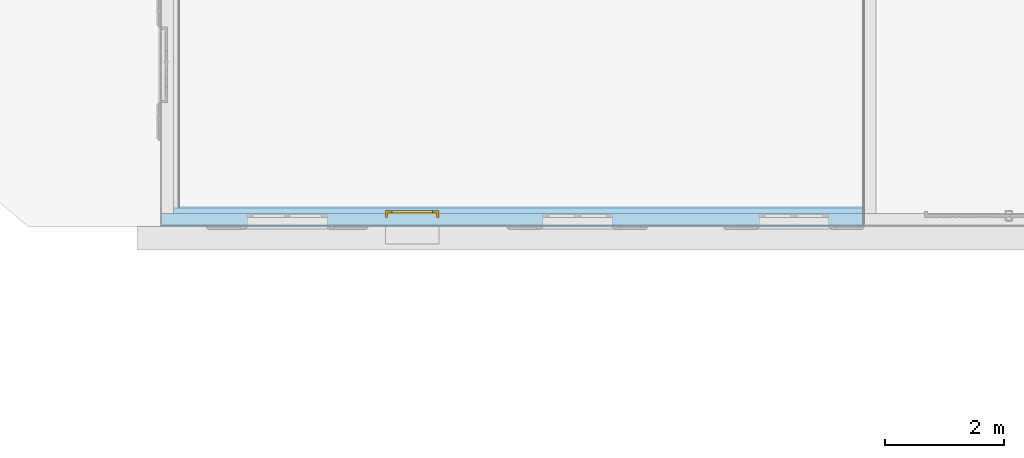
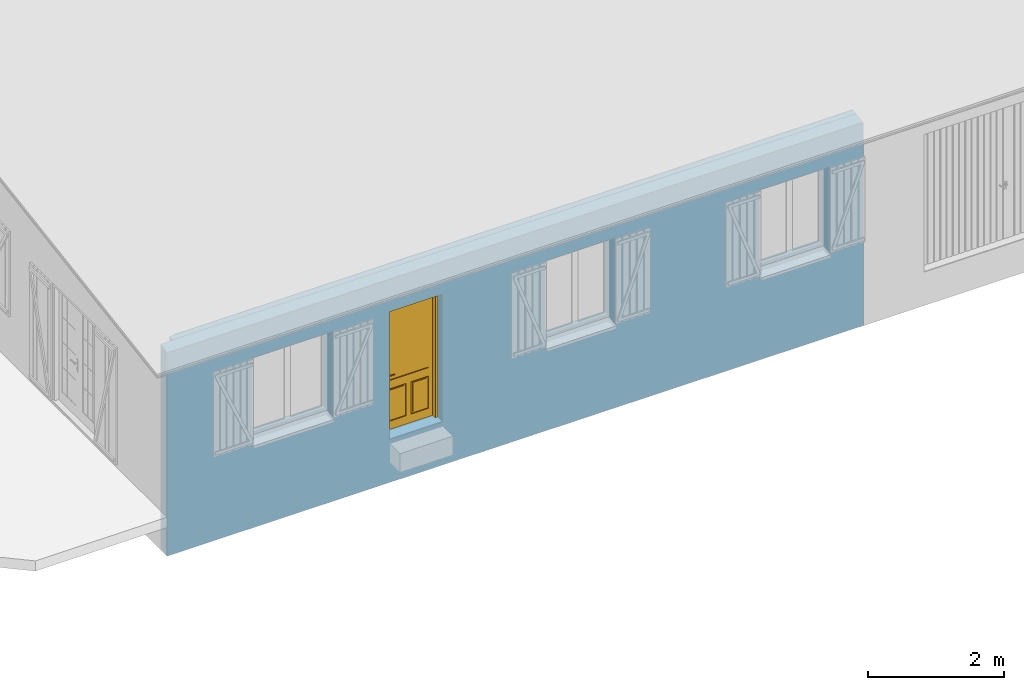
# One storey, part 6 of 12: 1 door, 4 openings, 1 element without a shape of its own, plus 4 elements that do not belong to this part.
"""IFC2X3 building model written with IfcOpenShell, lengths in metres."""

import ifcopenshell
import ifcopenshell.guid

model = None  # the IFC model being written
_history = None  # IfcOwnerHistory: only IFC2X3 demands one
_inside = {}  # id of a spatial element -> (the spatial element, [elements in it])
_under = {}  # id of a project, library or spatial element -> (it, [spatial elements below it])
_declared = {}  # id of a project -> (the project, [libraries it declares])
_typed = {}  # id of a type object -> (the type object, [elements of that type])
_made_of = {}  # id of a material, layer set ... -> (it, [elements and type objects made of it])


def new_model(schema):
    """Start an empty IFC model of exactly this schema.

    Asked for "IFC4X3", IfcOpenShell would pick the latest addendum, in which some entities
    have other attributes; the version numbers below select the first issue.
    IFC2X3 requires an IfcOwnerHistory on every rooted entity: one is made here for all.
    """
    global model, _history
    if schema == "IFC4X3":
        model = ifcopenshell.file(schema_version=(4, 3, 0, 0))
    else:
        model = ifcopenshell.file(schema=schema)
    _inside.clear()
    _under.clear()
    _declared.clear()
    _typed.clear()
    _made_of.clear()
    _history = None
    if model.schema == "IFC2X3":
        org = make("IfcOrganization", Name="unknown")
        user = make(
            "IfcPersonAndOrganization",
            ThePerson=make("IfcPerson", FamilyName="unknown"),
            TheOrganization=org,
        )
        app = make(
            "IfcApplication",
            ApplicationDeveloper=org,
            Version="unknown",
            ApplicationFullName="unknown",
            ApplicationIdentifier="unknown",
        )
        _history = make(
            "IfcOwnerHistory",
            OwningUser=user,
            OwningApplication=app,
            ChangeAction="ADDED",
            CreationDate=0,
        )
    return model


def make(cls, **values):
    """One entity of the class cls with the attributes given. An attribute that is None is left unset."""
    return model.create_entity(
        cls, **{name: value for name, value in values.items() if value is not None}
    )


def entity(cls, *values):
    """Any entity or typed value of the class cls, its attributes in the order of the schema. None: left unset."""
    e = model.create_entity(cls)
    for i, value in enumerate(values):
        if value is not None:
            e[i] = value
    return e


def rooted(cls, **values):
    """An entity with a GlobalId (a new one), such as an element, a storey or a relation."""
    return make(cls, GlobalId=ifcopenshell.guid.new(), OwnerHistory=_history, **values)


def si_unit(unit_type, name, prefix=None):
    """IfcSIUnit, for example si_unit("LENGTHUNIT", "METRE", prefix="MILLI")."""
    return make("IfcSIUnit", UnitType=unit_type, Prefix=prefix, Name=name)


def converted_unit(unit_type, name, factor, base, dimensions=None, offset=None):
    """IfcConversionBasedUnit, such as the inch: factor (a typed value) times the base unit."""
    return make(
        "IfcConversionBasedUnit"
        if offset is None
        else "IfcConversionBasedUnitWithOffset",
        ConversionOffset=offset,
        Dimensions=None
        if dimensions is None
        else entity("IfcDimensionalExponents", *dimensions),
        UnitType=unit_type,
        Name=name,
        ConversionFactor=make(
            "IfcMeasureWithUnit", ValueComponent=factor, UnitComponent=base
        ),
    )


def derived_unit(unit_type, elements):
    """IfcDerivedUnit: a product of units, each with its exponent."""
    return make(
        "IfcDerivedUnit",
        Elements=[
            make("IfcDerivedUnitElement", Unit=unit, Exponent=power)
            for unit, power in elements
        ],
        UnitType=unit_type,
    )


def money_unit(currency):
    """IfcMonetaryUnit."""
    return make("IfcMonetaryUnit", Currency=currency)


def assignment(units):
    """IfcUnitAssignment: the units of a project."""
    return None if units is None else make("IfcUnitAssignment", Units=units)


def point(xyz):
    """IfcCartesianPoint."""
    return None if xyz is None else make("IfcCartesianPoint", Coordinates=xyz)


def direction(xyz):
    """IfcDirection."""
    return None if xyz is None else make("IfcDirection", DirectionRatios=xyz)


def frame(location, z_axis=None, x_axis=None):
    """IfcAxis2Placement3D, a coordinate frame: its origin and axes. An axis left out is left unset."""
    return make(
        "IfcAxis2Placement3D",
        Location=point(location),
        Axis=direction(z_axis),
        RefDirection=direction(x_axis),
    )


def frame_2d(location, x_axis=None):
    """IfcAxis2Placement2D, a coordinate frame in the plane: its origin and x axis."""
    return make(
        "IfcAxis2Placement2D", Location=point(location), RefDirection=direction(x_axis)
    )


def origin_with_axes():
    """The frame at (0, 0, 0) with the z axis (0, 0, 1) and the x axis (1, 0, 0) written out."""
    return frame((0.0, 0.0, 0.0), z_axis=(0.0, 0.0, 1.0), x_axis=(1.0, 0.0, 0.0))


def origin_2d_with_axis():
    """The frame at (0, 0) in the plane with the x axis (1, 0) written out."""
    return frame_2d((0.0, 0.0), x_axis=(1.0, 0.0))


def place(relative_to, where):
    """IfcLocalPlacement: puts the frame where relative to a parent placement (None: the world)."""
    return make(
        "IfcLocalPlacement", PlacementRelTo=relative_to, RelativePlacement=where
    )


def context(
    kind, dimensions, precision=None, world=None, true_north=None, identifier=None
):
    """IfcGeometricRepresentationContext, for example the 3D "Model" context."""
    return make(
        "IfcGeometricRepresentationContext",
        ContextIdentifier=identifier,
        ContextType=kind,
        CoordinateSpaceDimension=dimensions,
        Precision=precision,
        WorldCoordinateSystem=world,
        TrueNorth=true_north,
    )


def subcontext(parent, identifier, kind, view, scale=None):
    """IfcGeometricRepresentationSubContext, for example "Body" below "Model"."""
    return make(
        "IfcGeometricRepresentationSubContext",
        ContextIdentifier=identifier,
        ContextType=kind,
        ParentContext=parent,
        TargetScale=scale,
        TargetView=view,
    )


def project(units=None, contexts=None):
    """IfcProject with its units and contexts."""
    return rooted(
        "IfcProject",
        Name="project",
        RepresentationContexts=contexts,
        UnitsInContext=assignment(units),
    )


def spatial(cls, under=None, at=None, **own):
    """A site, building, storey or space (cls), placed at a placement, below another one or the project."""
    s = rooted(cls, ObjectPlacement=at, **own)
    if under is not None:
        _under.setdefault(under.id(), (under, []))[1].append(s)
    return s


def polyline(points):
    """IfcPolyline through the points."""
    return make("IfcPolyline", Points=[point(p) for p in points])


def profile(cls, at=None, kind="AREA", **sizes):
    """A parametric profile (cls). Its sizes go by their IFC names, for example OverallWidth=200.0."""
    return make(cls, ProfileType=kind, Position=at, **sizes)


def rectangle(**sizes):
    """IfcRectangleProfileDef."""
    return profile("IfcRectangleProfileDef", **sizes)


def outline(outer, holes=None, kind="AREA"):
    """IfcArbitraryClosedProfileDef: a profile drawn as a closed curve; with holes, ...WithVoids."""
    if holes is None:
        return make("IfcArbitraryClosedProfileDef", ProfileType=kind, OuterCurve=outer)
    return make(
        "IfcArbitraryProfileDefWithVoids",
        ProfileType=kind,
        OuterCurve=outer,
        InnerCurves=holes,
    )


def extrude(swept, where, along, depth):
    """IfcExtrudedAreaSolid: the profile swept, set in the frame where, extruded along a direction by depth."""
    return make(
        "IfcExtrudedAreaSolid",
        SweptArea=swept,
        Position=where,
        ExtrudedDirection=direction(along),
        Depth=depth,
    )


def boolean(op, a, b):
    """IfcBooleanResult of two solids."""
    return make("IfcBooleanResult", Operator=op, FirstOperand=a, SecondOperand=b)


def faces_of(points, faces, orient=None, outer=None):
    """IfcFace entities. A face is a list of loops; a loop is a list of indices into points, from 0.

    orient and outer hold one flag for each loop. By default every Orientation is true, the
    first loop of a face is its IfcFaceOuterBound and the others are IfcFaceBound.
    """
    made = []
    for i, loops in enumerate(faces):
        bounds = []
        for j, loop in enumerate(loops):
            is_outer = j == 0 if outer is None else outer[i][j]
            bounds.append(
                make(
                    "IfcFaceOuterBound" if is_outer else "IfcFaceBound",
                    Bound=make("IfcPolyLoop", Polygon=[points[k] for k in loop]),
                    Orientation=True if orient is None else orient[i][j],
                )
            )
        made.append(make("IfcFace", Bounds=bounds))
    return made


def open_shell(faces, orient=None, outer=None):
    """The faces of one IfcOpenShell. surface_model builds it on its shared points."""
    return ("IfcOpenShell", faces, orient, outer)


def faceted_brep(points, faces, orient=None, outer=None, voids=None):
    """IfcFacetedBrep: a solid bounded by flat faces; with voids (closed shells), ...WithVoids."""
    shared = [point(p) for p in points]
    hull = make("IfcClosedShell", CfsFaces=faces_of(shared, faces, orient, outer))
    if voids is None:
        return make("IfcFacetedBrep", Outer=hull)
    return make(
        "IfcFacetedBrepWithVoids",
        Outer=hull,
        Voids=[
            make(cls, CfsFaces=faces_of(shared, fs, o, b)) for cls, fs, o, b in voids
        ],
    )


def surface_model(cls, points, shells):
    """IfcFaceBasedSurfaceModel or IfcShellBasedSurfaceModel (cls): surfaces that need not close."""
    shared = [point(p) for p in points]
    made = [make(c, CfsFaces=faces_of(shared, fs, o, b)) for c, fs, o, b in shells]
    if cls == "IfcFaceBasedSurfaceModel":
        return make(cls, FbsmFaces=made)
    return make(cls, SbsmBoundary=made)


def shape(context_of_items, identifier, shape_type, items):
    """IfcShapeRepresentation: the items that make up one representation, for example the "Body"."""
    return make(
        "IfcShapeRepresentation",
        ContextOfItems=context_of_items,
        RepresentationIdentifier=identifier,
        RepresentationType=shape_type,
        Items=items,
    )


def material(Name=None, Category=None):
    """IfcMaterial."""
    return make("IfcMaterial", Name=Name, Category=Category)


def made_of(thing, what):
    """Note that an element or type object is made of a material, layer set ...; save() writes the relation."""
    if what is not None:
        _made_of.setdefault(what.id(), (what, []))[1].append(thing)
    return thing


def type_object(cls, material=None, **own):
    """A type object (cls), such as IfcWallType, which elements share."""
    return made_of(rooted(cls, **own), material)


def element(
    cls,
    number,
    at=None,
    inside=None,
    cuts=None,
    type_object=None,
    material=None,
    context=None,
    identifier="Body",
    shape_type=None,
    held_by="IfcProductDefinitionShape",
    body=None,
    shapes=None,
    **own,
):
    """One element of the class cls, such as IfcWall. Its Tag is "e" and its number.

    at: its placement. inside: the storey or other place that contains it. cuts: it is an
    opening in that element (IfcRelVoidsElement). A single representation is given by context,
    identifier, shape_type and body (its items); several are given by shapes. held_by: the class
    of the entity that holds the representations. save() writes the other relations.
    """
    e = rooted(cls, Tag="e%d" % number, ObjectPlacement=at, **own)
    if body is not None:
        shapes = [shape(context, identifier, shape_type, body)]
    if shapes is not None:
        e.Representation = make(held_by, Representations=shapes)
    if inside is not None:
        _inside.setdefault(inside.id(), (inside, []))[1].append(e)
    if cuts is not None:
        rooted(
            "IfcRelVoidsElement", RelatingBuildingElement=cuts, RelatedOpeningElement=e
        )
    if type_object is not None:
        _typed.setdefault(type_object.id(), (type_object, []))[1].append(e)
    return made_of(e, material)


def fill(opening, filler):
    """IfcRelFillsElement: the door or window that sits in an opening."""
    return rooted(
        "IfcRelFillsElement",
        RelatingOpeningElement=opening,
        RelatedBuildingElement=filler,
    )


def aggregate(whole, parts):
    """IfcRelAggregates: a whole, such as a stair, and the parts it consists of."""
    return rooted("IfcRelAggregates", RelatingObject=whole, RelatedObjects=parts)


def save(model, path):
    """Write the relations noted so far, then the file.

    IfcRelAggregates (storeys below a building ...), IfcRelContainedInSpatialStructure (elements
    in a storey), IfcRelDefinesByType, IfcRelAssociatesMaterial and IfcRelDeclares: one each for
    every whole, place, type object, material and project.
    """
    for whole, parts in _under.values():
        aggregate(whole, parts)
    for where, things in _inside.values():
        rooted(
            "IfcRelContainedInSpatialStructure",
            RelatedElements=things,
            RelatingStructure=where,
        )
    for kind, things in _typed.values():
        rooted("IfcRelDefinesByType", RelatedObjects=things, RelatingType=kind)
    for what, things in _made_of.values():
        rooted("IfcRelAssociatesMaterial", RelatedObjects=things, RelatingMaterial=what)
    for by, libraries in _declared.values():
        rooted("IfcRelDeclares", RelatingContext=by, RelatedDefinitions=libraries)
    model.write(path)


model = new_model("IFC2X3")

# Units and contexts
model_context = context("Model", 3, precision=1e-05, world=origin_with_axes(), true_north=direction((0.0, 1.0)))
body_context = subcontext(model_context, "Body", "Model", "MODEL_VIEW")
ifc_project = project(units=[si_unit("LENGTHUNIT", "METRE"), si_unit("AREAUNIT", "SQUARE_METRE"), si_unit("VOLUMEUNIT", "CUBIC_METRE"), converted_unit("PLANEANGLEUNIT", "DEGREE", entity("IfcPlaneAngleMeasure", 0.0174532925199), si_unit("PLANEANGLEUNIT", "RADIAN"), dimensions=[0, 0, 0, 0, 0, 0, 0]), si_unit("SOLIDANGLEUNIT", "STERADIAN"), money_unit("CHF"), converted_unit("TIMEUNIT", "Year", entity("IfcTimeMeasure", 31556926.0), si_unit("TIMEUNIT", "SECOND"), dimensions=[0, 0, 1, 0, 0, 0, 0]), si_unit("MASSUNIT", "GRAM", prefix="KILO"), si_unit("THERMODYNAMICTEMPERATUREUNIT", "DEGREE_CELSIUS"), si_unit("LUMINOUSINTENSITYUNIT", "LUMEN"), si_unit("ENERGYUNIT", "JOULE", prefix="MEGA"), derived_unit("THERMALCONDUCTANCEUNIT", [(si_unit("POWERUNIT", "WATT"), 1), (si_unit("LENGTHUNIT", "METRE"), -1), (si_unit("THERMODYNAMICTEMPERATUREUNIT", "KELVIN"), -1)]), derived_unit("SPECIFICHEATCAPACITYUNIT", [(si_unit("ENERGYUNIT", "JOULE"), 1), (si_unit("MASSUNIT", "GRAM", prefix="KILO"), -1), (si_unit("THERMODYNAMICTEMPERATUREUNIT", "KELVIN"), -1)]), derived_unit("MASSDENSITYUNIT", [(si_unit("MASSUNIT", "GRAM", prefix="KILO"), 1), (si_unit("VOLUMEUNIT", "CUBIC_METRE"), -1)])], contexts=[model_context])

# Site, building, storey
site_placement = place(None, origin_with_axes())
site = spatial("IfcSite", under=ifc_project, at=site_placement, Name="Site", CompositionType="ELEMENT")
building_placement = place(site_placement, origin_with_axes())
building = spatial("IfcBuilding", under=site, at=building_placement, Name="Bâtiment", CompositionType="ELEMENT")
storey_placement = place(building_placement, origin_with_axes())
storey = spatial("IfcBuildingStorey", under=building, at=storey_placement, Name="Rez-de-chaussée", CompositionType="ELEMENT", Elevation=0.0)

# Door
door_style = type_object("IfcDoorStyle", Name="Porte 24", ConstructionType="NOTDEFINED", OperationType="SINGLE_SWING_RIGHT", ParameterTakesPrecedence=False, Sizeable=False)
wall_placement = place(storey_placement, frame((23.3871417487, 7.7379346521, -0.6), z_axis=(0.0, 0.0, 1.0), x_axis=(-1.0, 0.0, 0.0)))
opening_4_placement = place(wall_placement, frame((7.59, 0.0, 0.77), z_axis=(0.0, 0.0, 1.0), x_axis=(1.0, 0.0, 0.0)))
door_placement = place(opening_4_placement, frame((0.45, 0.0, 0.0), z_axis=(0.0, 0.0, 1.0), x_axis=(-1.0, 0.0, 0.0)))
door = element("IfcDoor", 1, at=door_placement, inside=storey, type_object=door_style, Name="PORTE-003", ObjectType="DOOR", OverallHeight=2.3, OverallWidth=0.9, context=body_context, shape_type="SurfaceModel", body=[
    faceted_brep([(0.04, 0.225, 0.0), (0.04, 0.225, 2.26), (0.04, 0.15, 2.26), (0.04, 0.15, 0.0), (0.028, 0.225, 2.26), (0.028, 0.225, 0.0), (0.028, 0.265, 2.26), (0.0, 0.265, 2.26), (0.0, 0.15, 2.26), (0.0, 0.15, 0.0), (0.0, 0.265, 0.0), (0.028, 0.265, 0.0)], [[[0, 1, 2, 3]], [[4, 1, 0, 5]], [[4, 6, 7, 8, 2, 1]], [[3, 2, 8, 9]], [[5, 0, 3, 9, 10, 11]], [[6, 4, 5, 11]], [[6, 11, 10, 7]], [[10, 9, 8, 7]]]),
    faceted_brep([(0.872, 0.225, 2.26), (0.86, 0.225, 2.26), (0.86, 0.15, 2.26), (0.9, 0.15, 2.26), (0.9, 0.265, 2.26), (0.872, 0.265, 2.26), (0.872, 0.225, 0.0), (0.86, 0.225, 0.0), (0.86, 0.15, 0.0), (0.9, 0.15, 0.0), (0.9, 0.265, 0.0), (0.872, 0.265, 0.0)], [[[0, 1, 2, 3, 4, 5]], [[1, 0, 6, 7]], [[1, 7, 8, 2]], [[3, 2, 8, 9]], [[4, 3, 9, 10]], [[11, 5, 4, 10]], [[0, 5, 11, 6]], [[6, 11, 10, 9, 8, 7]]]),
    faceted_brep([(0.028, 0.265, 2.272), (0.028, 0.265, 2.26), (0.0, 0.265, 2.26), (0.0, 0.265, 2.3), (0.9, 0.265, 2.3), (0.9, 0.265, 2.26), (0.872, 0.265, 2.26), (0.872, 0.265, 2.272), (0.028, 0.225, 2.272), (0.028, 0.225, 2.26), (0.04, 0.225, 2.26), (0.04, 0.15, 2.26), (0.0, 0.15, 2.26), (0.0, 0.15, 2.3), (0.9, 0.15, 2.3), (0.9, 0.15, 2.26), (0.872, 0.225, 2.26), (0.86, 0.15, 2.26), (0.86, 0.225, 2.26), (0.872, 0.225, 2.272)], [[[0, 1, 2, 3, 4, 5, 6, 7]], [[1, 0, 8, 9]], [[9, 10, 11, 12, 2, 1]], [[2, 12, 13, 3]], [[3, 13, 14, 4]], [[4, 14, 15, 5]], [[16, 6, 5, 15, 17, 18]], [[7, 6, 16, 19]], [[0, 7, 19, 8]], [[16, 18, 10, 9, 8, 19]], [[10, 18, 17, 11]], [[17, 15, 14, 13, 12, 11]]]),
    faceted_brep([(0.053, 0.225, 0.93), (0.0549030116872, 0.225, 0.920432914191), (0.0549030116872, 0.22, 0.920432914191), (0.053, 0.22, 0.93), (0.053, 0.225, 1.055), (0.0549030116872, 0.225, 1.06456708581), (0.0603223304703, 0.225, 1.07267766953), (0.0684329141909, 0.225, 1.07809698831), (0.078, 0.225, 1.08), (0.0875670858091, 0.225, 1.07809698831), (0.0956776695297, 0.225, 1.07267766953), (0.101096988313, 0.225, 1.06456708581), (0.103, 0.225, 1.055), (0.103, 0.225, 0.93), (0.101096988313, 0.225, 0.920432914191), (0.0956776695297, 0.225, 0.91232233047), (0.0875670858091, 0.225, 0.906903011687), (0.078, 0.225, 0.905), (0.0684329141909, 0.225, 0.906903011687), (0.0603223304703, 0.225, 0.91232233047), (0.0603223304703, 0.22, 0.91232233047), (0.0684329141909, 0.22, 0.906903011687), (0.078, 0.22, 0.905), (0.0875670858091, 0.22, 0.906903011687), (0.0956776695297, 0.22, 0.91232233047), (0.101096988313, 0.22, 0.920432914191), (0.103, 0.22, 0.93), (0.103, 0.22, 1.055), (0.101096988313, 0.22, 1.06456708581), (0.0956776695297, 0.22, 1.07267766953), (0.0875670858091, 0.22, 1.07809698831), (0.078, 0.22, 1.08), (0.0684329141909, 0.22, 1.07809698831), (0.0603223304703, 0.22, 1.07267766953), (0.0549030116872, 0.22, 1.06456708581), (0.053, 0.22, 1.055)], [[[0, 1, 2, 3]], [[0, 4, 5, 6, 7, 8, 9, 10, 11, 12, 13, 14, 15, 16, 17, 18, 19, 1]], [[1, 19, 20, 2]], [[3, 2, 20, 21, 22, 23, 24, 25, 26, 27, 28, 29, 30, 31, 32, 33, 34, 35]], [[4, 0, 3, 35]], [[5, 4, 35, 34]], [[6, 5, 34, 33]], [[7, 6, 33, 32]], [[8, 7, 32, 31]], [[9, 8, 31, 30]], [[10, 9, 30, 29]], [[11, 10, 29, 28]], [[12, 11, 28, 27]], [[13, 12, 27, 26]], [[14, 13, 26, 25]], [[15, 14, 25, 24]], [[16, 15, 24, 23]], [[17, 16, 23, 22]], [[18, 17, 22, 21]], [[19, 18, 21, 20]]]),
    faceted_brep([(0.0855, 0.22, 1.005), (0.0855, 0.19, 1.005), (0.0855, 0.19, 0.995), (0.0855, 0.22, 0.995), (0.0705, 0.22, 1.005), (0.0705, 0.183, 1.005), (0.0714895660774, 0.178025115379, 1.005), (0.0743076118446, 0.173807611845, 1.005), (0.0785251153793, 0.170989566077, 1.005), (0.0835, 0.17, 1.005), (0.1905, 0.17, 1.005), (0.1905, 0.172, 1.005), (0.189510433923, 0.176974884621, 1.005), (0.186692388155, 0.181192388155, 1.005), (0.182474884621, 0.184010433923, 1.005), (0.1775, 0.185, 1.005), (0.0905, 0.185, 1.005), (0.0885865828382, 0.185380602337, 1.005), (0.0869644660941, 0.186464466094, 1.005), (0.0858806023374, 0.188086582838, 1.005), (0.0858806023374, 0.188086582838, 0.995), (0.0869644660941, 0.186464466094, 0.995), (0.0885865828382, 0.185380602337, 0.995), (0.0905, 0.185, 0.995), (0.1775, 0.185, 0.995), (0.182474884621, 0.184010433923, 0.995), (0.186692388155, 0.181192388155, 0.995), (0.189510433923, 0.176974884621, 0.995), (0.1905, 0.172, 0.995), (0.1905, 0.17, 0.995), (0.0835, 0.17, 0.995), (0.0785251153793, 0.170989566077, 0.995), (0.0743076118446, 0.173807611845, 0.995), (0.0714895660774, 0.178025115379, 0.995), (0.0705, 0.183, 0.995), (0.0705, 0.22, 0.995)], [[[0, 1, 2, 3]], [[0, 4, 5, 6, 7, 8, 9, 10, 11, 12, 13, 14, 15, 16, 17, 18, 19, 1]], [[1, 19, 20, 2]], [[3, 2, 20, 21, 22, 23, 24, 25, 26, 27, 28, 29, 30, 31, 32, 33, 34, 35]], [[4, 0, 3, 35]], [[5, 4, 35, 34]], [[6, 5, 34, 33]], [[7, 6, 33, 32]], [[8, 7, 32, 31]], [[9, 8, 31, 30]], [[10, 9, 30, 29]], [[11, 10, 29, 28]], [[12, 11, 28, 27]], [[13, 12, 27, 26]], [[14, 13, 26, 25]], [[15, 14, 25, 24]], [[16, 15, 24, 23]], [[17, 16, 23, 22]], [[18, 17, 22, 21]], [[19, 18, 21, 20]]]),
    faceted_brep([(0.053, 0.265, 0.93), (0.053, 0.27, 0.93), (0.0549030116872, 0.27, 0.920432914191), (0.0549030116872, 0.265, 0.920432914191), (0.053, 0.265, 1.055), (0.053, 0.27, 1.055), (0.0549030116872, 0.27, 1.06456708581), (0.0603223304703, 0.27, 1.07267766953), (0.0684329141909, 0.27, 1.07809698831), (0.078, 0.27, 1.08), (0.0875670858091, 0.27, 1.07809698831), (0.0956776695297, 0.27, 1.07267766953), (0.101096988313, 0.27, 1.06456708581), (0.103, 0.27, 1.055), (0.103, 0.27, 0.93), (0.101096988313, 0.27, 0.920432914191), (0.0956776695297, 0.27, 0.91232233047), (0.0875670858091, 0.27, 0.906903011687), (0.078, 0.27, 0.905), (0.0684329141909, 0.27, 0.906903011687), (0.0603223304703, 0.27, 0.91232233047), (0.0603223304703, 0.265, 0.91232233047), (0.0684329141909, 0.265, 0.906903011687), (0.078, 0.265, 0.905), (0.0875670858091, 0.265, 0.906903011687), (0.0956776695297, 0.265, 0.91232233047), (0.101096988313, 0.265, 0.920432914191), (0.103, 0.265, 0.93), (0.103, 0.265, 1.055), (0.101096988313, 0.265, 1.06456708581), (0.0956776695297, 0.265, 1.07267766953), (0.0875670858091, 0.265, 1.07809698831), (0.078, 0.265, 1.08), (0.0684329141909, 0.265, 1.07809698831), (0.0603223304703, 0.265, 1.07267766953), (0.0549030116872, 0.265, 1.06456708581)], [[[0, 1, 2, 3]], [[4, 5, 1, 0]], [[1, 5, 6, 7, 8, 9, 10, 11, 12, 13, 14, 15, 16, 17, 18, 19, 20, 2]], [[3, 2, 20, 21]], [[0, 3, 21, 22, 23, 24, 25, 26, 27, 28, 29, 30, 31, 32, 33, 34, 35, 4]], [[35, 6, 5, 4]], [[34, 7, 6, 35]], [[33, 8, 7, 34]], [[32, 9, 8, 33]], [[31, 10, 9, 32]], [[30, 11, 10, 31]], [[29, 12, 11, 30]], [[28, 13, 12, 29]], [[27, 14, 13, 28]], [[26, 15, 14, 27]], [[25, 16, 15, 26]], [[24, 17, 16, 25]], [[23, 18, 17, 24]], [[22, 19, 18, 23]], [[21, 20, 19, 22]]]),
    faceted_brep([(0.0855, 0.27, 1.005), (0.0855, 0.27, 0.995), (0.0855, 0.3, 0.995), (0.0855, 0.3, 1.005), (0.0705, 0.27, 1.005), (0.0705, 0.27, 0.995), (0.0705, 0.307, 0.995), (0.0714895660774, 0.311974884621, 0.995), (0.0743076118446, 0.316192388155, 0.995), (0.0785251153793, 0.319010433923, 0.995), (0.0835, 0.32, 0.995), (0.1905, 0.32, 0.995), (0.1905, 0.318, 0.995), (0.189510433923, 0.313025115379, 0.995), (0.186692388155, 0.308807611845, 0.995), (0.182474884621, 0.305989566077, 0.995), (0.1775, 0.305, 0.995), (0.0905, 0.305, 0.995), (0.0885865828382, 0.304619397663, 0.995), (0.0869644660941, 0.303535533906, 0.995), (0.0858806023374, 0.301913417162, 0.995), (0.0858806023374, 0.301913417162, 1.005), (0.0869644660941, 0.303535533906, 1.005), (0.0885865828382, 0.304619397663, 1.005), (0.0905, 0.305, 1.005), (0.1775, 0.305, 1.005), (0.182474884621, 0.305989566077, 1.005), (0.186692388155, 0.308807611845, 1.005), (0.189510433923, 0.313025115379, 1.005), (0.1905, 0.318, 1.005), (0.1905, 0.32, 1.005), (0.0835, 0.32, 1.005), (0.0785251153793, 0.319010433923, 1.005), (0.0743076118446, 0.316192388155, 1.005), (0.0714895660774, 0.311974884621, 1.005), (0.0705, 0.307, 1.005)], [[[0, 1, 2, 3]], [[4, 5, 1, 0]], [[1, 5, 6, 7, 8, 9, 10, 11, 12, 13, 14, 15, 16, 17, 18, 19, 20, 2]], [[3, 2, 20, 21]], [[0, 3, 21, 22, 23, 24, 25, 26, 27, 28, 29, 30, 31, 32, 33, 34, 35, 4]], [[35, 6, 5, 4]], [[34, 7, 6, 35]], [[33, 8, 7, 34]], [[32, 9, 8, 33]], [[31, 10, 9, 32]], [[30, 11, 10, 31]], [[29, 12, 11, 30]], [[28, 13, 12, 29]], [[27, 14, 13, 28]], [[26, 15, 14, 27]], [[25, 16, 15, 26]], [[24, 17, 16, 25]], [[23, 18, 17, 24]], [[22, 19, 18, 23]], [[21, 20, 19, 22]]]),
    faceted_brep([(0.872, 0.265, 0.15), (0.872, 0.225, 0.15), (0.792, 0.225, 0.15), (0.792, 0.265, 0.15), (0.872, 0.265, 2.162), (0.872, 0.225, 2.162), (0.792, 0.225, 2.162), (0.792, 0.225, 0.88), (0.792, 0.225, 0.73), (0.792, 0.265, 0.73), (0.792, 0.265, 0.88), (0.792, 0.265, 2.162)], [[[0, 1, 2, 3]], [[4, 5, 1, 0]], [[1, 5, 6, 7, 8, 2]], [[3, 2, 8, 9]], [[0, 3, 9, 10, 11, 4]], [[11, 6, 5, 4]], [[10, 7, 6, 11]], [[9, 8, 7, 10]]]),
    faceted_brep([(0.028, 0.265, 0.15), (0.028, 0.225, 0.15), (0.028, 0.225, 2.162), (0.028, 0.265, 2.162), (0.108, 0.265, 0.15), (0.108, 0.225, 0.15), (0.108, 0.225, 0.73), (0.108, 0.225, 0.88), (0.108, 0.225, 2.162), (0.108, 0.265, 2.162), (0.108, 0.265, 0.88), (0.108, 0.265, 0.73)], [[[0, 1, 2, 3]], [[4, 5, 1, 0]], [[1, 5, 6, 7, 8, 2]], [[3, 2, 8, 9]], [[0, 3, 9, 10, 11, 4]], [[11, 6, 5, 4]], [[10, 7, 6, 11]], [[9, 8, 7, 10]]]),
    faceted_brep([(0.872, 0.265, 0.0), (0.872, 0.225, 0.0), (0.028, 0.225, 0.0), (0.028, 0.265, 0.0), (0.872, 0.265, 0.15), (0.872, 0.225, 0.15), (0.792, 0.225, 0.15), (0.49, 0.225, 0.15), (0.41, 0.225, 0.15), (0.108, 0.225, 0.15), (0.028, 0.225, 0.15), (0.028, 0.265, 0.15), (0.108, 0.265, 0.15), (0.41, 0.265, 0.15), (0.49, 0.265, 0.15), (0.792, 0.265, 0.15)], [[[0, 1, 2, 3]], [[4, 5, 1, 0]], [[1, 5, 6, 7, 8, 9, 10, 2]], [[3, 2, 10, 11]], [[0, 3, 11, 12, 13, 14, 15, 4]], [[15, 6, 5, 4]], [[14, 7, 6, 15]], [[13, 8, 7, 14]], [[12, 9, 8, 13]], [[11, 10, 9, 12]]]),
    faceted_brep([(0.872, 0.265, 2.272), (0.872, 0.225, 2.272), (0.872, 0.225, 2.162), (0.872, 0.265, 2.162), (0.028, 0.265, 2.272), (0.028, 0.225, 2.272), (0.028, 0.225, 2.162), (0.108, 0.225, 2.162), (0.792, 0.225, 2.162), (0.792, 0.265, 2.162), (0.108, 0.265, 2.162), (0.028, 0.265, 2.162)], [[[0, 1, 2, 3]], [[4, 5, 1, 0]], [[1, 5, 6, 7, 8, 2]], [[3, 2, 8, 9]], [[0, 3, 9, 10, 11, 4]], [[11, 6, 5, 4]], [[10, 7, 6, 11]], [[9, 8, 7, 10]]]),
    faceted_brep([(0.49, 0.265, 0.73), (0.49, 0.225, 0.73), (0.41, 0.225, 0.73), (0.41, 0.265, 0.73), (0.792, 0.265, 0.73), (0.792, 0.225, 0.73), (0.792, 0.225, 0.88), (0.108, 0.225, 0.88), (0.108, 0.225, 0.73), (0.108, 0.265, 0.73), (0.108, 0.265, 0.88), (0.792, 0.265, 0.88)], [[[0, 1, 2, 3]], [[4, 5, 1, 0]], [[1, 5, 6, 7, 8, 2]], [[3, 2, 8, 9]], [[0, 3, 9, 10, 11, 4]], [[11, 6, 5, 4]], [[10, 7, 6, 11]], [[9, 8, 7, 10]]]),
    faceted_brep([(0.49, 0.265, 0.15), (0.49, 0.225, 0.15), (0.41, 0.225, 0.15), (0.41, 0.265, 0.15), (0.49, 0.265, 0.73), (0.49, 0.225, 0.73), (0.41, 0.225, 0.73), (0.41, 0.265, 0.73)], [[[0, 1, 2, 3]], [[4, 5, 1, 0]], [[1, 5, 6, 2]], [[3, 2, 6, 7]], [[0, 3, 7, 4]], [[7, 6, 5, 4]]]),
    faceted_brep([(0.792, 0.25, 0.15), (0.792, 0.24, 0.15), (0.49, 0.24, 0.15), (0.49, 0.25, 0.15), (0.792, 0.25, 0.73), (0.792, 0.24, 0.73), (0.49, 0.24, 0.73), (0.762, 0.24, 0.18), (0.526, 0.24, 0.18), (0.526, 0.24, 0.7), (0.762, 0.24, 0.7), (0.49, 0.25, 0.73), (0.762, 0.25, 0.18), (0.762, 0.25, 0.7), (0.526, 0.25, 0.7), (0.526, 0.25, 0.18)], [[[0, 1, 2, 3]], [[4, 5, 1, 0]], [[1, 5, 6, 2], [7, 8, 9, 10]], [[3, 2, 6, 11]], [[0, 3, 11, 4], [12, 13, 14, 15]], [[11, 6, 5, 4]], [[15, 8, 7, 12]], [[14, 9, 8, 15]], [[13, 10, 9, 14]], [[12, 7, 10, 13]]]),
    faceted_brep([(0.41, 0.25, 0.15), (0.41, 0.24, 0.15), (0.108, 0.24, 0.15), (0.108, 0.25, 0.15), (0.41, 0.25, 0.73), (0.41, 0.24, 0.73), (0.108, 0.24, 0.73), (0.38, 0.24, 0.18), (0.141, 0.24, 0.18), (0.141, 0.24, 0.7), (0.38, 0.24, 0.7), (0.108, 0.25, 0.73), (0.38, 0.25, 0.18), (0.38, 0.25, 0.7), (0.141, 0.25, 0.7), (0.141, 0.25, 0.18)], [[[0, 1, 2, 3]], [[4, 5, 1, 0]], [[1, 5, 6, 2], [7, 8, 9, 10]], [[3, 2, 6, 11]], [[0, 3, 11, 4], [12, 13, 14, 15]], [[11, 6, 5, 4]], [[15, 8, 7, 12]], [[14, 9, 8, 15]], [[13, 10, 9, 14]], [[12, 7, 10, 13]]]),
    surface_model("IfcShellBasedSurfaceModel", [(0.792, 0.251, 0.88), (0.108, 0.251, 0.88), (0.108, 0.251, 2.162), (0.792, 0.251, 2.162)], [open_shell([[[0, 1, 2, 3]]])]),
    surface_model("IfcShellBasedSurfaceModel", [(0.792, 0.239, 0.88), (0.792, 0.239, 2.162), (0.108, 0.239, 2.162), (0.108, 0.239, 0.88)], [open_shell([[[0, 1, 2, 3]]])]),
    faceted_brep([(0.762, 0.258, 0.18), (0.762, 0.25, 0.18), (0.526, 0.25, 0.18), (0.526, 0.258, 0.18), (0.762, 0.258, 0.7), (0.762, 0.25, 0.7), (0.526, 0.25, 0.7), (0.526, 0.258, 0.7)], [[[0, 1, 2, 3]], [[4, 5, 1, 0]], [[1, 5, 6, 2]], [[3, 2, 6, 7]], [[0, 3, 7, 4]], [[7, 6, 5, 4]]]),
    faceted_brep([(0.141, 0.258, 0.18), (0.141, 0.25, 0.18), (0.141, 0.25, 0.7), (0.141, 0.258, 0.7), (0.38, 0.258, 0.18), (0.38, 0.25, 0.18), (0.38, 0.25, 0.7), (0.38, 0.258, 0.7)], [[[0, 1, 2, 3]], [[4, 5, 1, 0]], [[1, 5, 6, 2]], [[3, 2, 6, 7]], [[0, 3, 7, 4]], [[7, 6, 5, 4]]]),
    faceted_brep([(0.762, 0.25, 0.18), (0.762, 0.232, 0.18), (0.526, 0.232, 0.18), (0.526, 0.25, 0.18), (0.762, 0.25, 0.7), (0.762, 0.232, 0.7), (0.526, 0.232, 0.7), (0.526, 0.25, 0.7)], [[[0, 1, 2, 3]], [[4, 5, 1, 0]], [[1, 5, 6, 2]], [[3, 2, 6, 7]], [[0, 3, 7, 4]], [[7, 6, 5, 4]]]),
    faceted_brep([(0.141, 0.25, 0.18), (0.141, 0.232, 0.18), (0.141, 0.232, 0.7), (0.141, 0.25, 0.7), (0.38, 0.25, 0.18), (0.38, 0.232, 0.18), (0.38, 0.232, 0.7), (0.38, 0.25, 0.7)], [[[0, 1, 2, 3]], [[4, 5, 1, 0]], [[1, 5, 6, 2]], [[3, 2, 6, 7]], [[0, 3, 7, 4]], [[7, 6, 5, 4]]]),
])

# Wall, openings
wall_type = type_object("IfcWallType", Name="0.1 - Mur ext: revét ext + maçonnerie + doublage 10cm 315", PredefinedType="ELEMENTEDWALL")
wall = element("IfcWall", 2, at=wall_placement, inside=storey, type_object=wall_type, Name="MUR_EXT-005", ObjectType="ELEMENTEDWALL")
opening_1_placement = place(wall_placement, frame((1.17, 0.0, 1.55), z_axis=(0.0, 0.0, 1.0), x_axis=(1.0, 0.0, 0.0)))
element("IfcOpeningElement", 3, at=opening_1_placement, cuts=wall, Name="FENETRE-002", context=body_context, shape_type="SweptSolid", body=[
    extrude(rectangle(XDim=1.18, YDim=1.5, at=origin_2d_with_axis()), frame((0.0, -0.15, 0.75), z_axis=(0.0, -1.0, 0.0), x_axis=(1.0, 0.0, 0.0)), (0.0, 0.0, 1.0), 0.48),
    extrude(rectangle(XDim=1.18, YDim=1.5, at=origin_2d_with_axis()), frame((0.0, -0.15, 0.75), z_axis=(0.0, 1.0, 0.0), x_axis=(1.0, 0.0, 0.0)), (0.0, 0.0, 1.0), 0.465),
    extrude(rectangle(XDim=1.18, YDim=0.1, at=origin_2d_with_axis()), frame((0.0, -0.185, -0.05), z_axis=(0.0, 1.0, 0.0), x_axis=(1.0, 0.0, 0.0)), (0.0, 0.0, 1.0), 0.35),
])
opening_2_placement = place(wall_placement, frame((4.81, 0.0, 1.55), z_axis=(0.0, 0.0, 1.0), x_axis=(1.0, 0.0, 0.0)))
element("IfcOpeningElement", 4, at=opening_2_placement, cuts=wall, Name="FENETRE-002", context=body_context, shape_type="SweptSolid", body=[
    extrude(rectangle(XDim=1.18, YDim=1.5, at=origin_2d_with_axis()), frame((0.0, -0.15, 0.75), z_axis=(0.0, -1.0, 0.0), x_axis=(1.0, 0.0, 0.0)), (0.0, 0.0, 1.0), 0.48),
    extrude(rectangle(XDim=1.18, YDim=1.5, at=origin_2d_with_axis()), frame((0.0, -0.15, 0.75), z_axis=(0.0, 1.0, 0.0), x_axis=(1.0, 0.0, 0.0)), (0.0, 0.0, 1.0), 0.465),
    extrude(rectangle(XDim=1.18, YDim=0.1, at=origin_2d_with_axis()), frame((0.0, -0.185, -0.05), z_axis=(0.0, 1.0, 0.0), x_axis=(1.0, 0.0, 0.0)), (0.0, 0.0, 1.0), 0.35),
])
opening_3_placement = place(wall_placement, frame((9.69, 0.0, 1.55), z_axis=(0.0, 0.0, 1.0), x_axis=(1.0, 0.0, 0.0)))
element("IfcOpeningElement", 5, at=opening_3_placement, cuts=wall, Name="FENETRE-002", context=body_context, shape_type="SweptSolid", body=[
    extrude(rectangle(XDim=1.36, YDim=1.5, at=origin_2d_with_axis()), frame((0.0, -0.15, 0.75), z_axis=(0.0, -1.0, 0.0), x_axis=(1.0, 0.0, 0.0)), (0.0, 0.0, 1.0), 0.48),
    extrude(rectangle(XDim=1.36, YDim=1.5, at=origin_2d_with_axis()), frame((0.0, -0.15, 0.75), z_axis=(0.0, 1.0, 0.0), x_axis=(1.0, 0.0, 0.0)), (0.0, 0.0, 1.0), 0.465),
    extrude(rectangle(XDim=1.36, YDim=0.1, at=origin_2d_with_axis()), frame((0.0, -0.185, -0.05), z_axis=(0.0, 1.0, 0.0), x_axis=(1.0, 0.0, 0.0)), (0.0, 0.0, 1.0), 0.35),
])
opening_4 = element("IfcOpeningElement", 6, at=opening_4_placement, cuts=wall, Name="PORTE-003", context=body_context, shape_type="SweptSolid", body=[
    extrude(rectangle(XDim=0.9, YDim=2.3, at=origin_2d_with_axis()), frame((0.0, -0.15, 1.15), z_axis=(0.0, 1.0, 0.0), x_axis=(-1.0, 0.0, 0.0)), (0.0, 0.0, -1.0), 0.48),
    extrude(rectangle(XDim=0.9, YDim=2.3, at=origin_2d_with_axis()), frame((0.0, -0.15, 1.15), z_axis=(0.0, -1.0, 0.0), x_axis=(-1.0, 0.0, 0.0)), (0.0, 0.0, -1.0), 0.465),
])

fill(opening_4, door)

# Building element part
ifc_material_1 = material(Name="Finition int - Plaque de plâtre")
building_element_part_1_placement = place(wall_placement, origin_with_axes())
building_element_part_1 = element("IfcBuildingElementPart", 7, at=building_element_part_1_placement, material=ifc_material_1, Name="Finition int - Plaque de plâtre", context=body_context, shape_type="CSG", body=[
    boolean("DIFFERENCE", boolean("DIFFERENCE", boolean("DIFFERENCE", boolean("DIFFERENCE", extrude(outline(polyline([(0.0, -0.315), (11.82, -0.315), (11.82, -0.305), (0.0, -0.305), (0.0, -0.315)])), origin_with_axes(), (0.0, 0.0, 1.0), 5.5967588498), faceted_brep([(0.0, -0.305, 3.6887999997), (0.0, -0.315, 3.6903999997), (0.0, -0.315, 5.5967588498), (0.0, -0.305, 5.5967588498), (11.515, -0.315, 3.6903999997), (11.515, -0.305, 3.6887999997), (11.515, -0.315, 0.0), (11.82, -0.315, 0.0), (11.82, -0.315, 5.5967588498), (11.82, -0.305, 5.5967588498), (11.82, -0.305, 0.0), (11.515, -0.305, 0.0)], [[[0, 1, 2, 3]], [[4, 1, 0, 5]], [[4, 6, 7, 8, 2, 1]], [[3, 2, 8, 9]], [[5, 0, 3, 9, 10, 11]], [[6, 4, 5, 11]], [[6, 11, 10, 7]], [[8, 7, 10, 9]]])), faceted_brep([(0.0, -0.215, 3.6743999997), (0.0, -0.305, 3.6887999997), (0.0, -0.305, 5.5967588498), (0.0, -0.215, 5.5967588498), (11.605, -0.215, 3.6743999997), (11.605, -0.305, 3.6887999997), (11.605, -0.305, 0.0), (11.82, -0.305, 0.0), (11.82, -0.305, 5.5967588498), (11.82, -0.215, 5.5967588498), (11.82, -0.215, 0.0), (11.605, -0.215, 0.0)], [[[0, 1, 2, 3]], [[1, 0, 4, 5]], [[5, 6, 7, 8, 2, 1]], [[3, 2, 8, 9]], [[4, 0, 3, 9, 10, 11]], [[6, 5, 4, 11]], [[6, 11, 10, 7]], [[8, 7, 10, 9]]])), faceted_brep([(0.0, -0.015, 3.6423999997), (0.0, -0.215, 3.6743999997), (0.0, -0.215, 5.5967588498), (0.0, -0.015, 5.5967588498), (11.805, -0.015, 3.6423999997), (11.805, -0.215, 3.6743999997), (11.805, -0.215, 0.0), (11.82, -0.215, 0.0), (11.82, -0.215, 5.5967588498), (11.82, -0.015, 5.5967588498), (11.82, -0.015, 0.0), (11.805, -0.015, 0.0)], [[[0, 1, 2, 3]], [[1, 0, 4, 5]], [[5, 6, 7, 8, 2, 1]], [[3, 2, 8, 9]], [[4, 0, 3, 9, 10, 11]], [[6, 5, 4, 11]], [[6, 11, 10, 7]], [[8, 7, 10, 9]]])), faceted_brep([(0.0, 0.0, 3.6399999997), (0.0, -0.015, 3.6423999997), (0.0, -0.015, 5.5967588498), (0.0, 0.0, 5.5967588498), (11.82, 0.0, 3.6399999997), (11.82, -0.015, 3.6423999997), (11.82, -0.015, 5.5967588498), (11.82, 0.0, 5.5967588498)], [[[0, 1, 2, 3]], [[1, 0, 4, 5]], [[5, 6, 2, 1]], [[3, 2, 6, 7]], [[4, 0, 3, 7]], [[5, 4, 7, 6]]])),
])

ifc_material_2 = material(Name="Isolation - Laine de verre")
building_element_part_2_placement = place(wall_placement, origin_with_axes())
building_element_part_2 = element("IfcBuildingElementPart", 8, at=building_element_part_2_placement, material=ifc_material_2, Name="Isolation - Laine de verre", context=body_context, shape_type="CSG", body=[
    boolean("DIFFERENCE", boolean("DIFFERENCE", boolean("DIFFERENCE", boolean("DIFFERENCE", extrude(outline(polyline([(0.0, -0.305), (11.82, -0.305), (11.82, -0.215), (0.0, -0.215), (0.0, -0.305)])), origin_with_axes(), (0.0, 0.0, 1.0), 5.5967588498), faceted_brep([(0.0, -0.305, 3.6887999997), (0.0, -0.315, 3.6903999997), (0.0, -0.315, 5.5967588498), (0.0, -0.305, 5.5967588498), (11.515, -0.315, 3.6903999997), (11.515, -0.305, 3.6887999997), (11.515, -0.315, 0.0), (11.82, -0.315, 0.0), (11.82, -0.315, 5.5967588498), (11.82, -0.305, 5.5967588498), (11.82, -0.305, 0.0), (11.515, -0.305, 0.0)], [[[0, 1, 2, 3]], [[4, 1, 0, 5]], [[4, 6, 7, 8, 2, 1]], [[3, 2, 8, 9]], [[5, 0, 3, 9, 10, 11]], [[6, 4, 5, 11]], [[6, 11, 10, 7]], [[8, 7, 10, 9]]])), faceted_brep([(0.0, -0.215, 3.6743999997), (0.0, -0.305, 3.6887999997), (0.0, -0.305, 5.5967588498), (0.0, -0.215, 5.5967588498), (11.605, -0.215, 3.6743999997), (11.605, -0.305, 3.6887999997), (11.605, -0.305, 0.0), (11.82, -0.305, 0.0), (11.82, -0.305, 5.5967588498), (11.82, -0.215, 5.5967588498), (11.82, -0.215, 0.0), (11.605, -0.215, 0.0)], [[[0, 1, 2, 3]], [[1, 0, 4, 5]], [[5, 6, 7, 8, 2, 1]], [[3, 2, 8, 9]], [[4, 0, 3, 9, 10, 11]], [[6, 5, 4, 11]], [[6, 11, 10, 7]], [[8, 7, 10, 9]]])), faceted_brep([(0.0, -0.015, 3.6423999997), (0.0, -0.215, 3.6743999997), (0.0, -0.215, 5.5967588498), (0.0, -0.015, 5.5967588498), (11.805, -0.015, 3.6423999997), (11.805, -0.215, 3.6743999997), (11.805, -0.215, 0.0), (11.82, -0.215, 0.0), (11.82, -0.215, 5.5967588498), (11.82, -0.015, 5.5967588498), (11.82, -0.015, 0.0), (11.805, -0.015, 0.0)], [[[0, 1, 2, 3]], [[1, 0, 4, 5]], [[5, 6, 7, 8, 2, 1]], [[3, 2, 8, 9]], [[4, 0, 3, 9, 10, 11]], [[6, 5, 4, 11]], [[6, 11, 10, 7]], [[8, 7, 10, 9]]])), faceted_brep([(0.0, 0.0, 3.6399999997), (0.0, -0.015, 3.6423999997), (0.0, -0.015, 5.5967588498), (0.0, 0.0, 5.5967588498), (11.82, 0.0, 3.6399999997), (11.82, -0.015, 3.6423999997), (11.82, -0.015, 5.5967588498), (11.82, 0.0, 5.5967588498)], [[[0, 1, 2, 3]], [[1, 0, 4, 5]], [[5, 6, 2, 1]], [[3, 2, 6, 7]], [[4, 0, 3, 7]], [[5, 4, 7, 6]]])),
])

ifc_material_3 = material(Name="Brique ciment (extérieur)")
building_element_part_3_placement = place(wall_placement, origin_with_axes())
building_element_part_3 = element("IfcBuildingElementPart", 9, at=building_element_part_3_placement, material=ifc_material_3, Name="Brique ciment (extérieur)", context=body_context, shape_type="CSG", body=[
    boolean("DIFFERENCE", boolean("DIFFERENCE", boolean("DIFFERENCE", boolean("DIFFERENCE", extrude(outline(polyline([(0.0, -0.215), (11.82, -0.215), (11.82, -0.015), (0.0, -0.015), (0.0, -0.215)])), origin_with_axes(), (0.0, 0.0, 1.0), 5.5967588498), faceted_brep([(0.0, -0.305, 3.6887999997), (0.0, -0.315, 3.6903999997), (0.0, -0.315, 5.5967588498), (0.0, -0.305, 5.5967588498), (11.515, -0.315, 3.6903999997), (11.515, -0.305, 3.6887999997), (11.515, -0.315, 0.0), (11.82, -0.315, 0.0), (11.82, -0.315, 5.5967588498), (11.82, -0.305, 5.5967588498), (11.82, -0.305, 0.0), (11.515, -0.305, 0.0)], [[[0, 1, 2, 3]], [[4, 1, 0, 5]], [[4, 6, 7, 8, 2, 1]], [[3, 2, 8, 9]], [[5, 0, 3, 9, 10, 11]], [[6, 4, 5, 11]], [[6, 11, 10, 7]], [[8, 7, 10, 9]]])), faceted_brep([(0.0, -0.215, 3.6743999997), (0.0, -0.305, 3.6887999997), (0.0, -0.305, 5.5967588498), (0.0, -0.215, 5.5967588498), (11.605, -0.215, 3.6743999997), (11.605, -0.305, 3.6887999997), (11.605, -0.305, 0.0), (11.82, -0.305, 0.0), (11.82, -0.305, 5.5967588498), (11.82, -0.215, 5.5967588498), (11.82, -0.215, 0.0), (11.605, -0.215, 0.0)], [[[0, 1, 2, 3]], [[1, 0, 4, 5]], [[5, 6, 7, 8, 2, 1]], [[3, 2, 8, 9]], [[4, 0, 3, 9, 10, 11]], [[6, 5, 4, 11]], [[6, 11, 10, 7]], [[8, 7, 10, 9]]])), faceted_brep([(0.0, -0.015, 3.6423999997), (0.0, -0.215, 3.6743999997), (0.0, -0.215, 5.5967588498), (0.0, -0.015, 5.5967588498), (11.805, -0.015, 3.6423999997), (11.805, -0.215, 3.6743999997), (11.805, -0.215, 0.0), (11.82, -0.215, 0.0), (11.82, -0.215, 5.5967588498), (11.82, -0.015, 5.5967588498), (11.82, -0.015, 0.0), (11.805, -0.015, 0.0)], [[[0, 1, 2, 3]], [[1, 0, 4, 5]], [[5, 6, 7, 8, 2, 1]], [[3, 2, 8, 9]], [[4, 0, 3, 9, 10, 11]], [[6, 5, 4, 11]], [[6, 11, 10, 7]], [[8, 7, 10, 9]]])), faceted_brep([(0.0, 0.0, 3.6399999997), (0.0, -0.015, 3.6423999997), (0.0, -0.015, 5.5967588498), (0.0, 0.0, 5.5967588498), (11.82, 0.0, 3.6399999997), (11.82, -0.015, 3.6423999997), (11.82, -0.015, 5.5967588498), (11.82, 0.0, 5.5967588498)], [[[0, 1, 2, 3]], [[1, 0, 4, 5]], [[5, 6, 2, 1]], [[3, 2, 6, 7]], [[4, 0, 3, 7]], [[5, 4, 7, 6]]])),
])

ifc_material_4 = material(Name="Finition ext - Crépis")
building_element_part_4_placement = place(wall_placement, origin_with_axes())
building_element_part_4 = element("IfcBuildingElementPart", 10, at=building_element_part_4_placement, material=ifc_material_4, Name="Finition ext - Crépis", context=body_context, shape_type="CSG", body=[
    boolean("DIFFERENCE", boolean("DIFFERENCE", boolean("DIFFERENCE", boolean("DIFFERENCE", extrude(outline(polyline([(0.0, -0.015), (11.82, -0.015), (11.82, 0.0), (0.0, 0.0), (0.0, -0.015)])), origin_with_axes(), (0.0, 0.0, 1.0), 5.5967588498), faceted_brep([(0.0, -0.305, 3.6887999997), (0.0, -0.315, 3.6903999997), (0.0, -0.315, 5.5967588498), (0.0, -0.305, 5.5967588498), (11.515, -0.315, 3.6903999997), (11.515, -0.305, 3.6887999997), (11.515, -0.315, 0.0), (11.82, -0.315, 0.0), (11.82, -0.315, 5.5967588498), (11.82, -0.305, 5.5967588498), (11.82, -0.305, 0.0), (11.515, -0.305, 0.0)], [[[0, 1, 2, 3]], [[4, 1, 0, 5]], [[4, 6, 7, 8, 2, 1]], [[3, 2, 8, 9]], [[5, 0, 3, 9, 10, 11]], [[6, 4, 5, 11]], [[6, 11, 10, 7]], [[8, 7, 10, 9]]])), faceted_brep([(0.0, -0.215, 3.6743999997), (0.0, -0.305, 3.6887999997), (0.0, -0.305, 5.5967588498), (0.0, -0.215, 5.5967588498), (11.605, -0.215, 3.6743999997), (11.605, -0.305, 3.6887999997), (11.605, -0.305, 0.0), (11.82, -0.305, 0.0), (11.82, -0.305, 5.5967588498), (11.82, -0.215, 5.5967588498), (11.82, -0.215, 0.0), (11.605, -0.215, 0.0)], [[[0, 1, 2, 3]], [[1, 0, 4, 5]], [[5, 6, 7, 8, 2, 1]], [[3, 2, 8, 9]], [[4, 0, 3, 9, 10, 11]], [[6, 5, 4, 11]], [[6, 11, 10, 7]], [[8, 7, 10, 9]]])), faceted_brep([(0.0, -0.015, 3.6423999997), (0.0, -0.215, 3.6743999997), (0.0, -0.215, 5.5967588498), (0.0, -0.015, 5.5967588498), (11.805, -0.015, 3.6423999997), (11.805, -0.215, 3.6743999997), (11.805, -0.215, 0.0), (11.82, -0.215, 0.0), (11.82, -0.215, 5.5967588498), (11.82, -0.015, 5.5967588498), (11.82, -0.015, 0.0), (11.805, -0.015, 0.0)], [[[0, 1, 2, 3]], [[1, 0, 4, 5]], [[5, 6, 7, 8, 2, 1]], [[3, 2, 8, 9]], [[4, 0, 3, 9, 10, 11]], [[6, 5, 4, 11]], [[6, 11, 10, 7]], [[8, 7, 10, 9]]])), faceted_brep([(0.0, 0.0, 3.6399999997), (0.0, -0.015, 3.6423999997), (0.0, -0.015, 5.5967588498), (0.0, 0.0, 5.5967588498), (11.82, 0.0, 3.6399999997), (11.82, -0.015, 3.6423999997), (11.82, -0.015, 5.5967588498), (11.82, 0.0, 5.5967588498)], [[[0, 1, 2, 3]], [[1, 0, 4, 5]], [[5, 6, 2, 1]], [[3, 2, 6, 7]], [[4, 0, 3, 7]], [[5, 4, 7, 6]]])),
])

aggregate(wall, [building_element_part_1, building_element_part_2, building_element_part_3, building_element_part_4])

save(model, "model.ifc")
